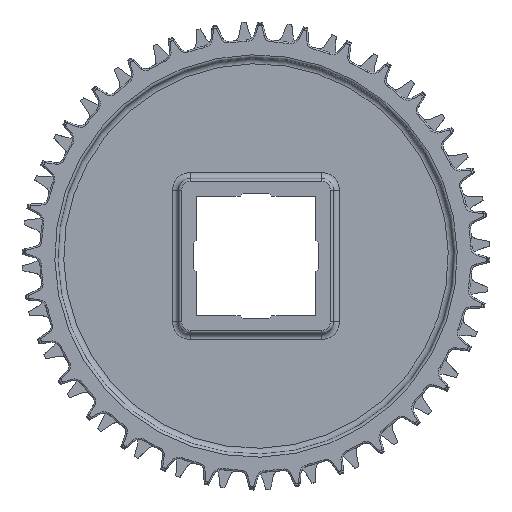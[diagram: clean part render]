
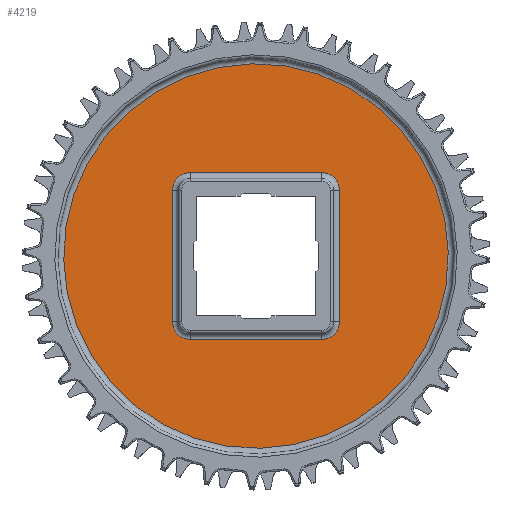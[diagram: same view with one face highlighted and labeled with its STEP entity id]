
A CAD part, top view. The second image highlights one B-rep face of the part: STEP entity #4219.
In plain terms, the highlighted planar face has unit normal (0, 0, 1).
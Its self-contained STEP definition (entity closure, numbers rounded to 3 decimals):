
#1456=FACE_BOUND('',#7780,.T.);
#1457=FACE_BOUND('',#7781,.T.);
#1502=PLANE('',#24872);
#2184=LINE('',#35522,#3188);
#2186=LINE('',#35534,#3190);
#2188=LINE('',#35546,#3192);
#2190=LINE('',#35555,#3194);
#3188=VECTOR('',#28067,1.);
#3190=VECTOR('',#28081,1.);
#3192=VECTOR('',#28095,1.);
#3194=VECTOR('',#28107,1.);
#4219=ADVANCED_FACE('',(#1456,#1457),#1502,.T.);
#7780=EDGE_LOOP('',(#9494));
#7781=EDGE_LOOP('',(#9495,#9496,#9497,#9498,#9499,#9500,#9501,#9502));
#9494=ORIENTED_EDGE('',*,*,#19154,.T.);
#9495=ORIENTED_EDGE('',*,*,#19076,.F.);
#9496=ORIENTED_EDGE('',*,*,#19079,.T.);
#9497=ORIENTED_EDGE('',*,*,#19082,.F.);
#9498=ORIENTED_EDGE('',*,*,#19085,.T.);
#9499=ORIENTED_EDGE('',*,*,#19088,.F.);
#9500=ORIENTED_EDGE('',*,*,#19091,.T.);
#9501=ORIENTED_EDGE('',*,*,#19093,.F.);
#9502=ORIENTED_EDGE('',*,*,#19073,.T.);
#16910=VERTEX_POINT('',#35510);
#16913=VERTEX_POINT('',#35515);
#16915=VERTEX_POINT('',#35521);
#16917=VERTEX_POINT('',#35527);
#16919=VERTEX_POINT('',#35533);
#16921=VERTEX_POINT('',#35539);
#16923=VERTEX_POINT('',#35545);
#16925=VERTEX_POINT('',#35551);
#16966=VERTEX_POINT('',#35678);
#19073=EDGE_CURVE('',#16910,#16913,#22837,.T.);
#19076=EDGE_CURVE('',#16915,#16913,#2184,.T.);
#19079=EDGE_CURVE('',#16915,#16917,#22841,.T.);
#19082=EDGE_CURVE('',#16919,#16917,#2186,.T.);
#19085=EDGE_CURVE('',#16919,#16921,#22845,.T.);
#19088=EDGE_CURVE('',#16923,#16921,#2188,.T.);
#19091=EDGE_CURVE('',#16923,#16925,#22849,.T.);
#19093=EDGE_CURVE('',#16910,#16925,#2190,.T.);
#19154=EDGE_CURVE('',#16966,#16966,#22850,.T.);
#22837=CIRCLE('',#24830,6.);
#22841=CIRCLE('',#24836,6.);
#22845=CIRCLE('',#24842,6.);
#22849=CIRCLE('',#24848,6.);
#22850=CIRCLE('',#24871,64.5);
#24830=AXIS2_PLACEMENT_3D('',#35516,#28060,#28061);
#24836=AXIS2_PLACEMENT_3D('',#35528,#28074,#28075);
#24842=AXIS2_PLACEMENT_3D('',#35540,#28088,#28089);
#24848=AXIS2_PLACEMENT_3D('',#35552,#28102,#28103);
#24871=AXIS2_PLACEMENT_3D('',#35677,#28210,#28211);
#24872=AXIS2_PLACEMENT_3D('',#35679,#28212,#28213);
#28060=DIRECTION('',(0.,0.,-1.));
#28061=DIRECTION('',(-1.,0.,0.));
#28067=DIRECTION('',(-1.,0.,0.));
#28074=DIRECTION('',(0.,0.,-1.));
#28075=DIRECTION('',(0.,1.,0.));
#28081=DIRECTION('',(0.,1.,0.));
#28088=DIRECTION('',(0.,0.,-1.));
#28089=DIRECTION('',(1.,0.,0.));
#28095=DIRECTION('',(1.,0.,0.));
#28102=DIRECTION('',(0.,0.,-1.));
#28103=DIRECTION('',(0.,-1.,0.));
#28107=DIRECTION('',(0.,-1.,0.));
#28210=DIRECTION('',(0.,0.,1.));
#28211=DIRECTION('',(-0.195,0.981,0.));
#28212=DIRECTION('',(0.,0.,1.));
#28213=DIRECTION('',(-1.,0.,0.));
#35510=CARTESIAN_POINT('',(-28.,22.,2.5));
#35515=CARTESIAN_POINT('',(-22.,28.,2.5));
#35516=CARTESIAN_POINT('',(-22.,22.,2.5));
#35521=CARTESIAN_POINT('',(22.,28.,2.5));
#35522=CARTESIAN_POINT('',(22.,28.,2.5));
#35527=CARTESIAN_POINT('',(28.,22.,2.5));
#35528=CARTESIAN_POINT('',(22.,22.,2.5));
#35533=CARTESIAN_POINT('',(28.,-22.,2.5));
#35534=CARTESIAN_POINT('',(28.,-22.,2.5));
#35539=CARTESIAN_POINT('',(22.,-28.,2.5));
#35540=CARTESIAN_POINT('',(22.,-22.,2.5));
#35545=CARTESIAN_POINT('',(-22.,-28.,2.5));
#35546=CARTESIAN_POINT('',(-22.,-28.,2.5));
#35551=CARTESIAN_POINT('',(-28.,-22.,2.5));
#35552=CARTESIAN_POINT('',(-22.,-22.,2.5));
#35555=CARTESIAN_POINT('',(-28.,22.,2.5));
#35677=CARTESIAN_POINT('',(0.,0.,2.5));
#35678=CARTESIAN_POINT('',(-12.583,63.261,2.5));
#35679=CARTESIAN_POINT('',(0.,0.,2.5));
